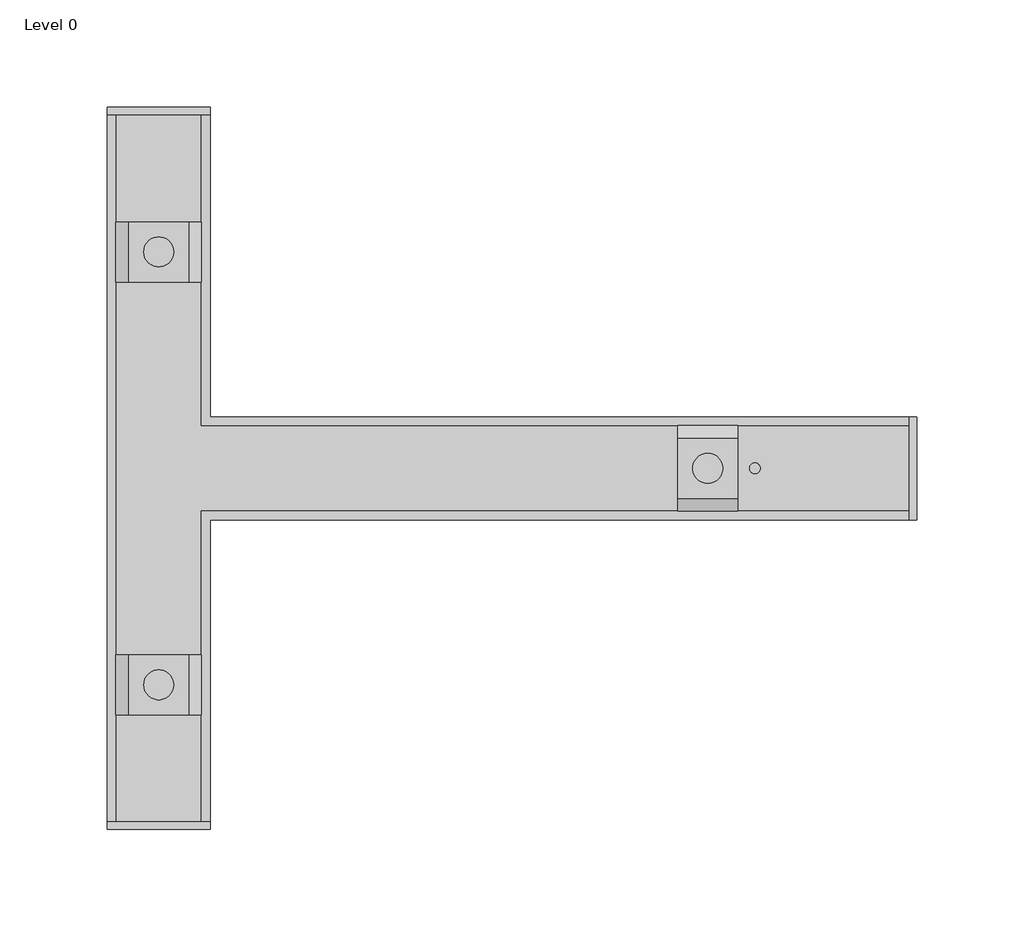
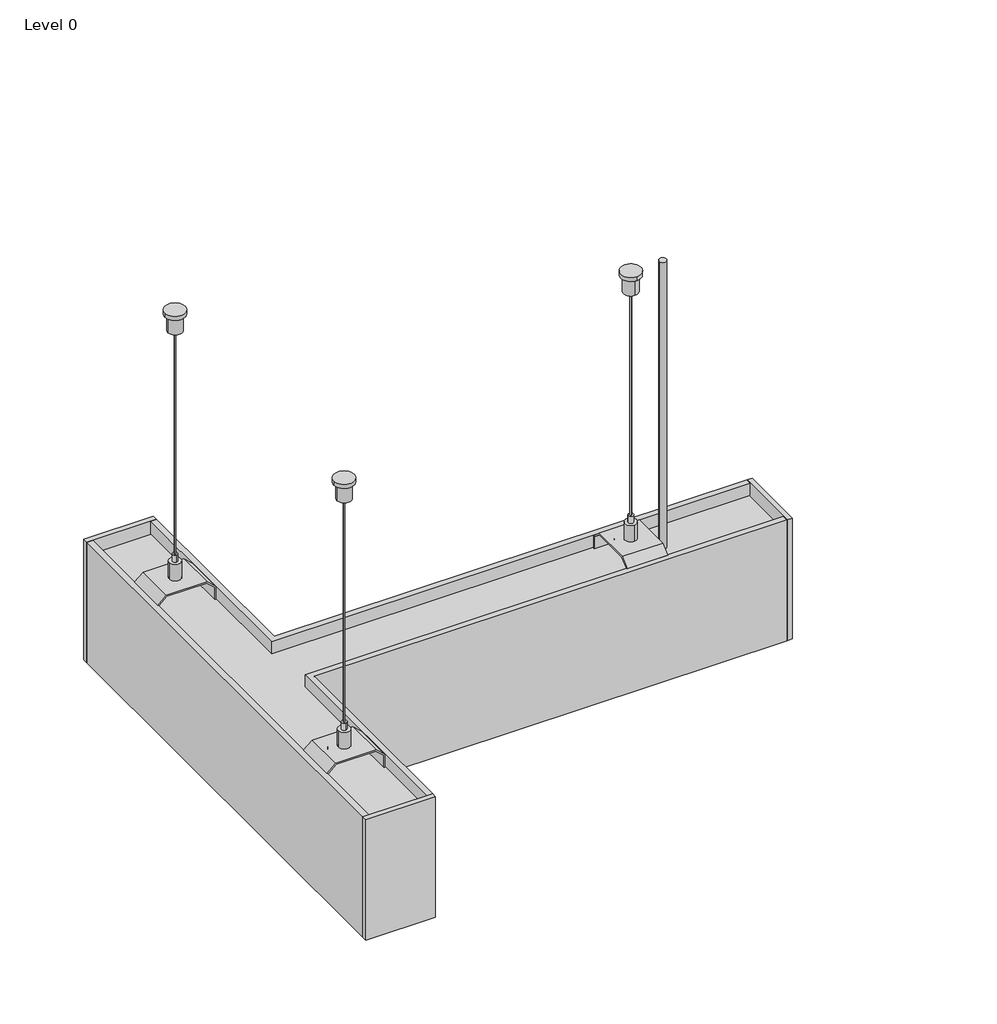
# One storey: 1 light fixture.
"""IFC4 building model written with IfcOpenShell, lengths in millimetres."""

from ifc_helpers import new_model, si_unit, origin, place, context, project, spatial, transform, mapped, element, save
from components import light_fixture_87ece87d

model = new_model("IFC4")

# Units and contexts
model_context = context("Model", 3, world=origin())
ifc_project = project(units=[si_unit("LENGTHUNIT", "METRE", prefix="MILLI")], contexts=[model_context])

# Site, building, storey
site = spatial("IfcSite", under=ifc_project)
building = spatial("IfcBuilding", under=site)
storey = spatial("IfcBuildingStorey", under=building, Name="Level 0", Elevation=0.0)

# Light fixture
placement = place(None, origin())
light_fixture_shape = light_fixture_87ece87d(model_context)
element("IfcLightFixture", 1, ObjectType="KLUŚ - SERPENT - ZW T90 : Silver Anodized - 3000 K - 1780 lm - up, down", at=placement, inside=storey, context=model_context, shape_type="MappedRepresentation", body=[
    mapped(light_fixture_shape, transform((0.0, 0.0, 288.0), x_axis=(1.0, 0.0, 0.0), y_axis=(0.0, -1.0, 0.0), z_axis=(0.0, 0.0, -1.0))),
])

save(model, "model.ifc")
